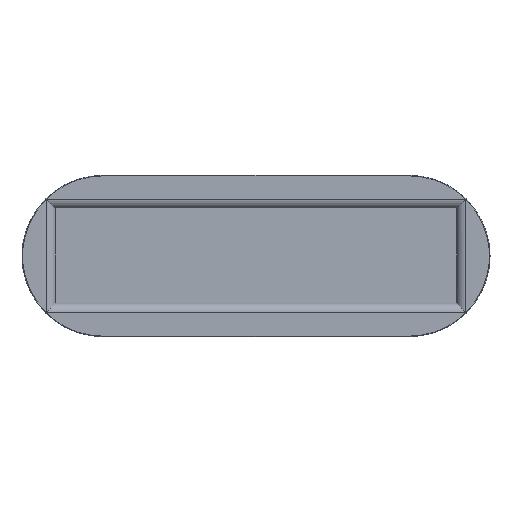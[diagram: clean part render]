
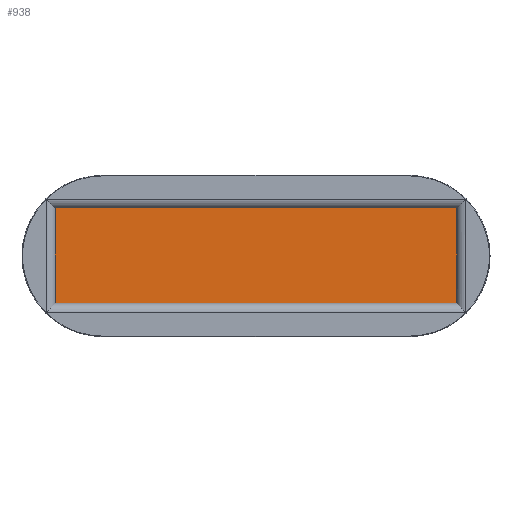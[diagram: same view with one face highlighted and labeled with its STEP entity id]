
A CAD part, top view. The second image highlights one B-rep face of the part: STEP entity #938.
In plain terms, the highlighted planar face has unit normal (0, 0, 1).
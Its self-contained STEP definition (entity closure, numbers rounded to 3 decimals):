
#2 = CARTESIAN_POINT ( 'NONE',  ( 750., 180., 8.72 ) ) ;
#52 = CARTESIAN_POINT ( 'NONE',  ( -750., -180., 8.72 ) ) ;
#84 = AXIS2_PLACEMENT_3D ( 'NONE', #117, #877, #485 ) ;
#117 = CARTESIAN_POINT ( 'NONE',  ( 0., 0., 8.72 ) ) ;
#147 = CARTESIAN_POINT ( 'NONE',  ( -750., 180., 8.72 ) ) ;
#165 = ORIENTED_EDGE ( 'NONE', *, *, #1580, .T. ) ;
#177 = DIRECTION ( 'NONE',  ( 0., 1., 0. ) ) ;
#301 = CARTESIAN_POINT ( 'NONE',  ( 750., -180., 8.72 ) ) ;
#485 = DIRECTION ( 'NONE',  ( 1., 0., 0. ) ) ;
#548 = DIRECTION ( 'NONE',  ( -1., 0., 0. ) ) ;
#605 = EDGE_CURVE ( 'NONE', #1684, #794, #1715, .T. ) ;
#794 = VERTEX_POINT ( 'NONE', #1186 ) ;
#845 = VECTOR ( 'NONE', #548, 1000. ) ;
#877 = DIRECTION ( 'NONE',  ( 0., 0., 1. ) ) ;
#908 = DIRECTION ( 'NONE',  ( 0., -1., 0. ) ) ;
#938 = ADVANCED_FACE ( 'NONE', ( #1432 ), #1469, .T. ) ;
#955 = EDGE_CURVE ( 'NONE', #1838, #1684, #1130, .T. ) ;
#990 = EDGE_LOOP ( 'NONE', ( #165, #1766, #1010, #1381 ) ) ;
#1010 = ORIENTED_EDGE ( 'NONE', *, *, #605, .T. ) ;
#1026 = DIRECTION ( 'NONE',  ( 1., 0., 0. ) ) ;
#1126 = CARTESIAN_POINT ( 'NONE',  ( 750., 180., 8.72 ) ) ;
#1130 = LINE ( 'NONE', #1889, #2169 ) ;
#1184 = EDGE_CURVE ( 'NONE', #794, #1805, #1529, .T. ) ;
#1186 = CARTESIAN_POINT ( 'NONE',  ( -750., 180., 8.72 ) ) ;
#1194 = VECTOR ( 'NONE', #908, 1000. ) ;
#1381 = ORIENTED_EDGE ( 'NONE', *, *, #1184, .T. ) ;
#1391 = VECTOR ( 'NONE', #1026, 1000. ) ;
#1432 = FACE_OUTER_BOUND ( 'NONE', #990, .T. ) ;
#1469 = PLANE ( 'NONE',  #84 ) ;
#1511 = LINE ( 'NONE', #52, #1391 ) ;
#1529 = LINE ( 'NONE', #147, #1194 ) ;
#1580 = EDGE_CURVE ( 'NONE', #1805, #1838, #1511, .T. ) ;
#1684 = VERTEX_POINT ( 'NONE', #2 ) ;
#1715 = LINE ( 'NONE', #1126, #845 ) ;
#1766 = ORIENTED_EDGE ( 'NONE', *, *, #955, .T. ) ;
#1805 = VERTEX_POINT ( 'NONE', #2414 ) ;
#1838 = VERTEX_POINT ( 'NONE', #301 ) ;
#1889 = CARTESIAN_POINT ( 'NONE',  ( 750., -180., 8.72 ) ) ;
#2169 = VECTOR ( 'NONE', #177, 1000. ) ;
#2414 = CARTESIAN_POINT ( 'NONE',  ( -750., -180., 8.72 ) ) ;
